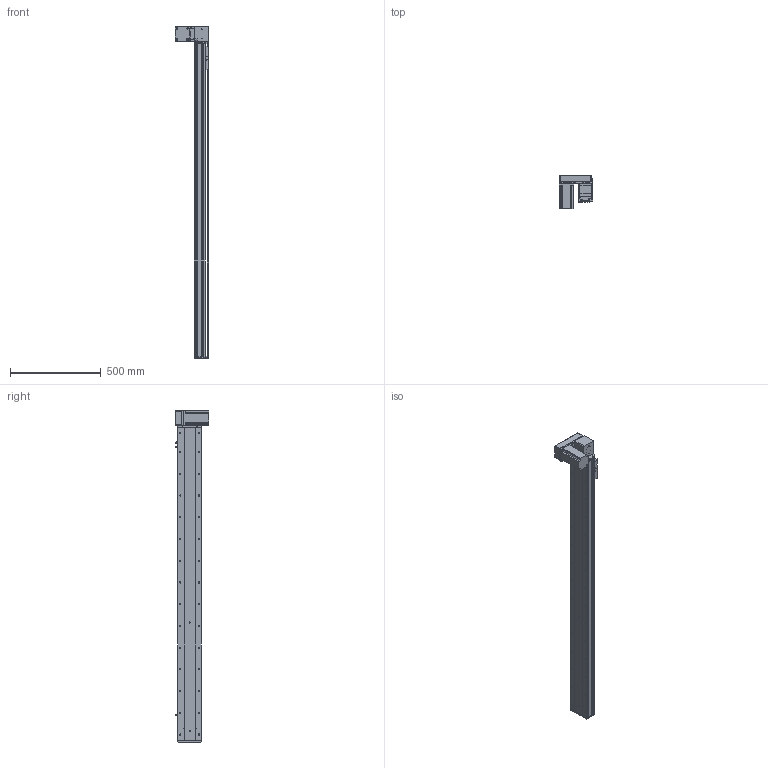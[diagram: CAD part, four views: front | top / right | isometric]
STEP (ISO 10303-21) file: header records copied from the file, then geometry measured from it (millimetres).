
FILE_DESCRIPTION (( 'STEP AP214' ), '1' );
FILE_NAME ('KSD130B-S1500-MRD-CM.STEP', '2019-09-23T01:54:44', ( '微软用户' ), ( '微软中国' ), 'SwSTEP 2.0', 'SolidWorks 2014', '' );
FILE_SCHEMA (( 'AUTOMOTIVE_DESIGN' ));
Length unit declared in the file: millimetre
Products named in the file (12): 130宽模组保护罩上下左右折-同步带; 台达ECMA－C20807AS伺服电机; 130宽模组马达安装板连板上下折丝杆同步带; 覜茼え100遵圉猾敕; U倰嫖萇EEㄜSX672; 130宽盖板半封闭同步带-1500行程; 130宽马达安装板同步带右-改镜向_默认<按加工>; 130宽马达安装板同步带半封闭; 130宽同步带安装座半封闭; 130宽端盖同步带半封闭; 130宽底板半封闭同步带-1500行程; KSD130B-S1500-MRD-CM
Assembly tree (13 placements, depth 2):
  KSD130B-S1500-MRD-CM
    130宽底板半封闭同步带-1500行程
    130宽端盖同步带半封闭
    130宽同步带安装座半封闭
    130宽马达安装板同步带半封闭
    130宽马达安装板同步带右-改镜向_默认<按加工>
    130宽盖板半封闭同步带-1500行程
    U倰嫖萇EEㄜSX672  x3
    覜茼え100遵圉猾敕
    130宽模组马达安装板连板上下折丝杆同步带
    台达ECMA－C20807AS伺服电机
    130宽模组保护罩上下左右折-同步带
Bounding box: 186 x 184.8 x 1833 mm (x, y, z)
Volume: 6314653.7 mm3; surface area: 1770318.4 mm2
Topology: 14 solids, 14 shells, 1659 faces, 4805 edges, 3051 vertices
Faces by surface type: cylinder 810, plane 642, cone 207
Entity records: 55975 total; most frequent: CARTESIAN_POINT 10704, DIRECTION 8463, ORIENTED_EDGE 8182, EDGE_CURVE 4091, AXIS2_PLACEMENT_3D 3110, VERTEX_POINT 2675, LINE 2243, VECTOR 2243
